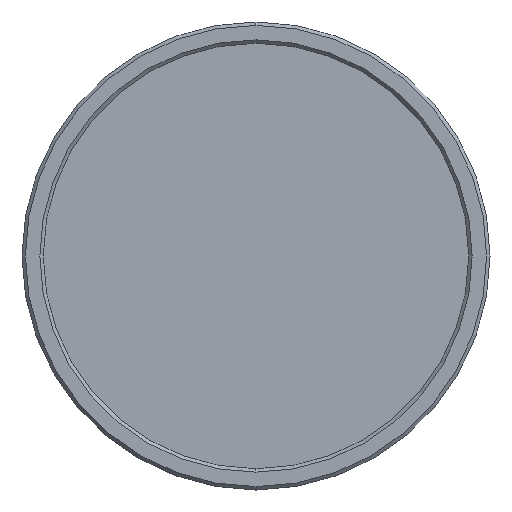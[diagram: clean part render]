
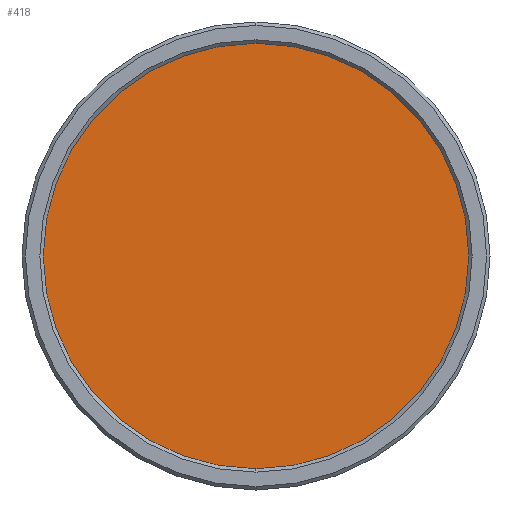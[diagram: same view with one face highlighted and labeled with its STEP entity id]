
A CAD part, left-side view. The second image highlights one B-rep face of the part: STEP entity #418.
In plain terms, the highlighted planar face has unit normal (-1, 0, 0).
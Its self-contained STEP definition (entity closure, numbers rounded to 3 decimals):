
#17 = VERTEX_POINT ( 'NONE', #58 ) ;
#18 = EDGE_LOOP ( 'NONE', ( #149, #268 ) ) ;
#19 = FACE_OUTER_BOUND ( 'NONE', #18, .T. ) ;
#48 = DIRECTION ( 'NONE',  ( -1., 0., 0. ) ) ;
#58 = CARTESIAN_POINT ( 'NONE',  ( 1.7, -12.75, 0. ) ) ;
#93 = PLANE ( 'NONE',  #703 ) ;
#149 = ORIENTED_EDGE ( 'NONE', *, *, #213, .T. ) ;
#213 = EDGE_CURVE ( 'NONE', #17, #501, #522, .T. ) ;
#243 = DIRECTION ( 'NONE',  ( -1., 0., 0. ) ) ;
#264 = AXIS2_PLACEMENT_3D ( 'NONE', #573, #48, #441 ) ;
#268 = ORIENTED_EDGE ( 'NONE', *, *, #307, .T. ) ;
#307 = EDGE_CURVE ( 'NONE', #501, #17, #598, .T. ) ;
#360 = CARTESIAN_POINT ( 'NONE',  ( 1.7, 12.75, 0. ) ) ;
#370 = DIRECTION ( 'NONE',  ( 1., 0., 0. ) ) ;
#376 = CARTESIAN_POINT ( 'NONE',  ( 1.7, 12.75, 0. ) ) ;
#418 = ADVANCED_FACE ( 'NONE', ( #19 ), #93, .F. ) ;
#441 = DIRECTION ( 'NONE',  ( 0., -1., 0. ) ) ;
#501 = VERTEX_POINT ( 'NONE', #376 ) ;
#522 = CIRCLE ( 'NONE', #526, 12.75 ) ;
#526 = AXIS2_PLACEMENT_3D ( 'NONE', #701, #243, #762 ) ;
#573 = CARTESIAN_POINT ( 'NONE',  ( 1.7, 0., 0. ) ) ;
#598 = CIRCLE ( 'NONE', #264, 12.75 ) ;
#628 = DIRECTION ( 'NONE',  ( 0., 1., 0. ) ) ;
#701 = CARTESIAN_POINT ( 'NONE',  ( 1.7, 0., 0. ) ) ;
#703 = AXIS2_PLACEMENT_3D ( 'NONE', #360, #370, #628 ) ;
#762 = DIRECTION ( 'NONE',  ( 0., -1., 0. ) ) ;
